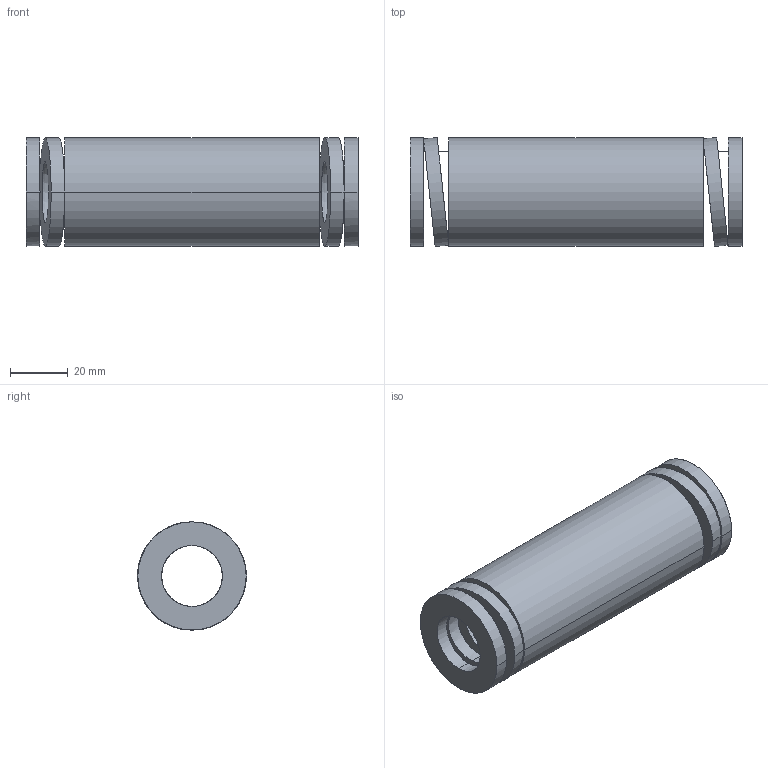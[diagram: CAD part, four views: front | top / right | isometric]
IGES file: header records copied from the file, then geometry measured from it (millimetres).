
Start section: START RECORD GO HERE.
Global section: file name: 392-B40-115.igs; native system: DASSAULT SYSTEMES CATIA V5 R20 - www.3ds.com; preprocessor: CATIA Version 5 Release 20 ; author: Utente; organization: NB04-ASUS; date: 20210813.131717; units: millimetre
Bounding box: 115 x 37.79 x 37.5 mm (x, y, z)
Surface area: 27210.1 mm2 (no closed solid volume)
Topology: 0 solids, 0 shells, 38 faces, 184 edges, 184 vertices
Faces by surface type: revolution 28, plane 10
